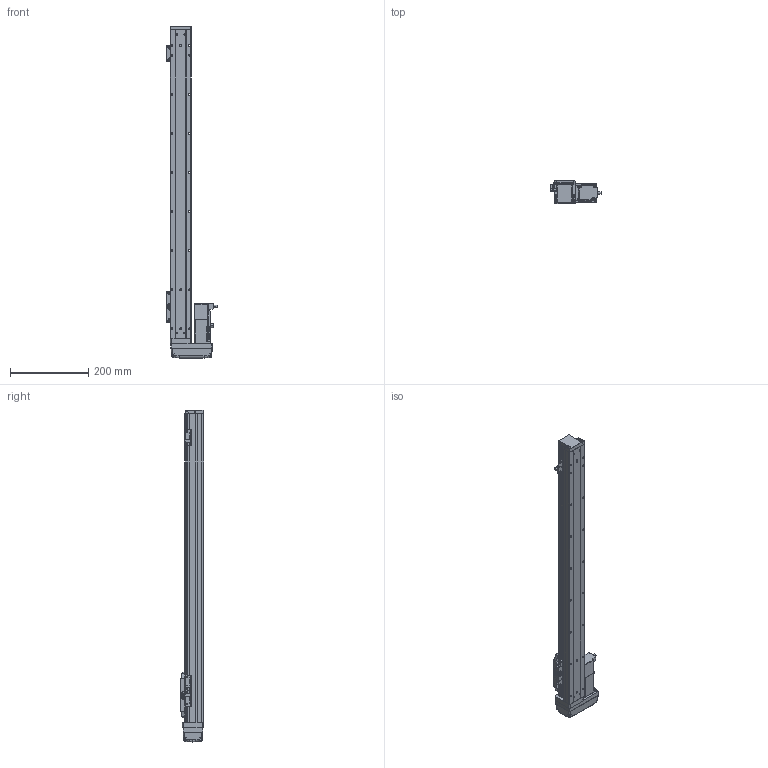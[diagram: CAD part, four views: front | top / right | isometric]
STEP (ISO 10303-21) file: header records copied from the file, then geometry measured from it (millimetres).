
FILE_DESCRIPTION (( 'STEP AP203' ), '1' );
FILE_NAME ('13.STEP', '2021-01-04T05:54:35', ( '' ), ( '' ), 'SwSTEP 2.0', 'SolidWorks 2016', '' );
FILE_SCHEMA (( 'CONFIG_CONTROL_DESIGN' ));
Length unit declared in the file: millimetre
Products named in the file (10): CTH5-BR-菁釱; CTH5-BR-02; CTH5-BR-03; CTH5-BR-07; CTH5-BR-05; 13; CTH5-BR-HZ; CTH5-BR-T10; CTH5-BR-01; PM-Y45
Assembly tree (14 placements, depth 2):
  13
    CTH5-BR-菁釱
    CTH5-BR-01
    CTH5-BR-02
    CTH5-BR-03
    CTH5-BR-05  x2
    CTH5-BR-07  x3
    CTH5-BR-HZ
    CTH5-BR-T10
    PM-Y45  x3
Bounding box: 129.75 x 60 x 849.9 mm (x, y, z)
Volume: 1908021.2 mm3; surface area: 349444 mm2
Topology: 30 solids, 30 shells, 1550 faces, 4221 edges, 2682 vertices
Faces by surface type: plane 699, cylinder 601, cone 152, bspline 70, torus 24, sphere 4
Entity records: 49169 total; most frequent: CARTESIAN_POINT 14931, ORIENTED_EDGE 7126, DIRECTION 6610, EDGE_CURVE 3563, AXIS2_PLACEMENT_3D 2335, VERTEX_POINT 2282, LINE 1940, VECTOR 1940
